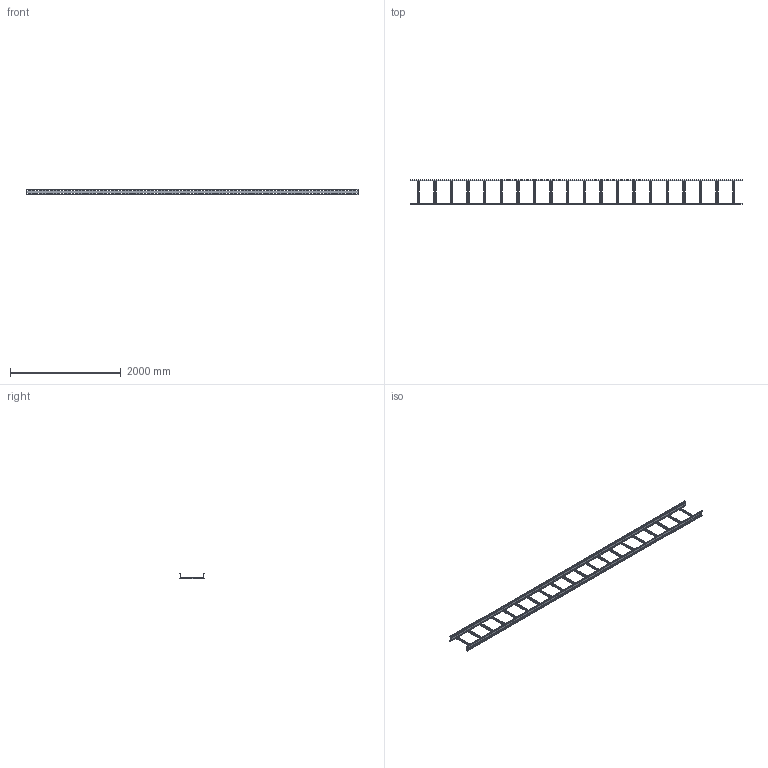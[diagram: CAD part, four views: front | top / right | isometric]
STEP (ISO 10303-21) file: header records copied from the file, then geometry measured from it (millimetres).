
FILE_DESCRIPTION(/* description */ ('','CAx-IF Rec.Pracs.---Representation and Presentation of Product Manufacturing Information (PMI)---4.0---2014-10-13'),/* implementation_level */ '2;1');
FILE_NAME(/* name */ 'Eurostrut_ECL100-400-6_Cable Ladder.step',/* time_stamp */ '2026-09-03T11:55:03+02:00',/* author */ (''),/* organization */ (''),/* preprocessor_version */ 'ST-DEVELOPER v20.1',/* originating_system */ 'Autodesk Revit 2027 27.2.0.39',/* authorisation */ '');
FILE_SCHEMA (('AP242_MANAGED_MODEL_BASED_3D_ENGINEERING_MIM_LF { 1 0 10303 442 2 1 4 }'));
Products named in the file (4): TopLevelAssembly; 60mm; 60mm_1; Cable Ladder Rung_Slotted
Assembly tree (22 placements, depth 2):
  TopLevelAssembly
    60mm
    60mm_1
    Cable Ladder Rung_Slotted  x20
Bounding box: 6000 x 446 x 100 mm (x, y, z)
Volume: 4688725.9 mm3; surface area: 5154754.8 mm2
Topology: 22 solids, 22 shells, 3940 faces, 11688 edges, 7792 vertices
Faces by surface type: plane 3036, bspline 800, cylinder 104
Entity records: 71928 total; most frequent: CARTESIAN_POINT 13696, ORIENTED_EDGE 12432, DIRECTION 10480, EDGE_CURVE 6216, LINE 6080, VECTOR 6080, VERTEX_POINT 4144, EDGE_LOOP 3078
